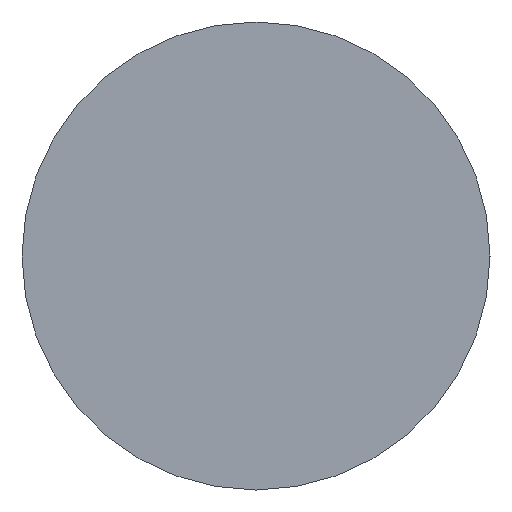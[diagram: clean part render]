
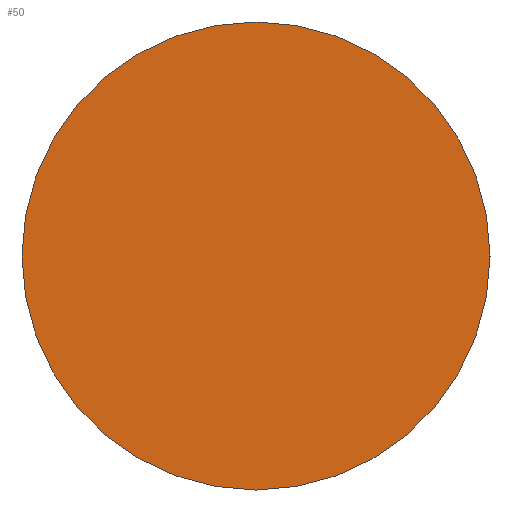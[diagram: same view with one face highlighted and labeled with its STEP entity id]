
A CAD part, left-side view. The second image highlights one B-rep face of the part: STEP entity #50.
In plain terms, the highlighted planar face has unit normal (-1, 0, 0).
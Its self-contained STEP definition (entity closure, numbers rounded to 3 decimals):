
#5 = EDGE_CURVE ( 'NONE', #532, #131, #338, .T. ) ;
#47 = CARTESIAN_POINT ( 'NONE',  ( 0., 0., 0. ) ) ;
#50 = ADVANCED_FACE ( 'NONE', ( #154 ), #341, .F. ) ;
#56 = DIRECTION ( 'NONE',  ( -1., 0., 0. ) ) ;
#67 = DIRECTION ( 'NONE',  ( 0., 0., 1. ) ) ;
#79 = ORIENTED_EDGE ( 'NONE', *, *, #5, .T. ) ;
#89 = AXIS2_PLACEMENT_3D ( 'NONE', #403, #419, #427 ) ;
#131 = VERTEX_POINT ( 'NONE', #509 ) ;
#141 = EDGE_CURVE ( 'NONE', #131, #532, #186, .T. ) ;
#154 = FACE_OUTER_BOUND ( 'NONE', #451, .T. ) ;
#155 = AXIS2_PLACEMENT_3D ( 'NONE', #364, #344, #301 ) ;
#186 = CIRCLE ( 'NONE', #644, 19. ) ;
#203 = CARTESIAN_POINT ( 'NONE',  ( 0., 0., -19. ) ) ;
#301 = DIRECTION ( 'NONE',  ( 0., 0., 1. ) ) ;
#338 = CIRCLE ( 'NONE', #155, 19. ) ;
#341 = PLANE ( 'NONE',  #89 ) ;
#344 = DIRECTION ( 'NONE',  ( -1., 0., 0. ) ) ;
#351 = ORIENTED_EDGE ( 'NONE', *, *, #141, .T. ) ;
#364 = CARTESIAN_POINT ( 'NONE',  ( 0., 0., 0. ) ) ;
#403 = CARTESIAN_POINT ( 'NONE',  ( 0., 0., 0. ) ) ;
#419 = DIRECTION ( 'NONE',  ( 1., 0., 0. ) ) ;
#427 = DIRECTION ( 'NONE',  ( 0., 0., -1. ) ) ;
#451 = EDGE_LOOP ( 'NONE', ( #351, #79 ) ) ;
#509 = CARTESIAN_POINT ( 'NONE',  ( 0., 0., 19. ) ) ;
#532 = VERTEX_POINT ( 'NONE', #203 ) ;
#644 = AXIS2_PLACEMENT_3D ( 'NONE', #47, #56, #67 ) ;
